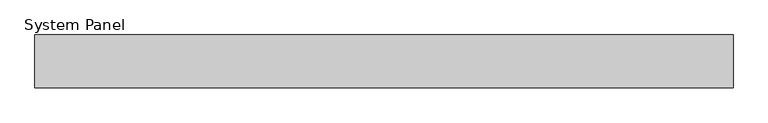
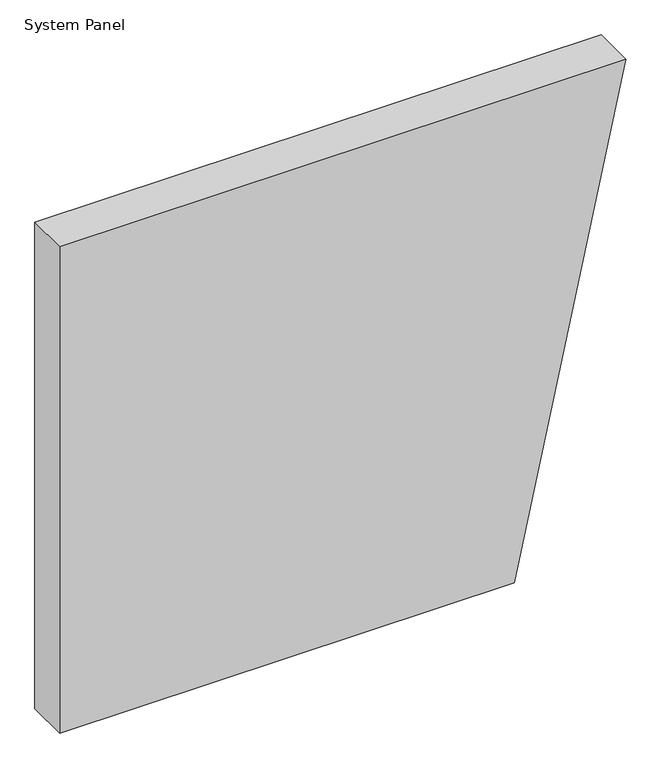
"""IFC4 building model written with IfcOpenShell, lengths in millimetres: plate geometry, System Panel : Equitilt 100mm Horizontal - Plain RHEA - MW."""

from ifc_helpers import new_model, si_unit, frame, origin, place, context, project, spatial, polyline, outline, extrude, source, transform, mapped, element, save


def system_panel_d6a9731a(model_context):
    return source(origin(), model_context, "Body", "SweptSolid", [
        extrude(outline(polyline([(0.0, -660.8716619), (0.0, 400.0), (1200.0, 660.8716619), (1200.0, -660.8716619), (0.0, -660.8716619)])), frame((0.0, -100.0, 0.0), z_axis=(0.0, 1.0, 0.0), x_axis=(0.0, 0.0, 1.0)), (0.0, 0.0, 1.0), 100.0),
    ])


if __name__ == "__main__":
    model = new_model("IFC4")
    model_context = context("Model", 3, world=origin())
    ifc_project = project(units=[si_unit("LENGTHUNIT", "METRE", prefix="MILLI")], contexts=[model_context])
    site = spatial("IfcSite", under=ifc_project)
    building = spatial("IfcBuilding", under=site)
    placement = place(None, origin())
    system_panel_shape = system_panel_d6a9731a(model_context)
    element("IfcPlate", 1, ObjectType="System Panel : Equitilt 100mm Horizontal - Plain RHEA - MW", at=placement, inside=building, context=model_context, shape_type="MappedRepresentation", body=[
        mapped(system_panel_shape, transform((0.0, 0.0, 0.0), x_axis=(1.0, 0.0, 0.0), y_axis=(0.0, 1.0, 0.0), z_axis=(0.0, 0.0, 1.0))),
    ])
    save(model, "model.ifc")
